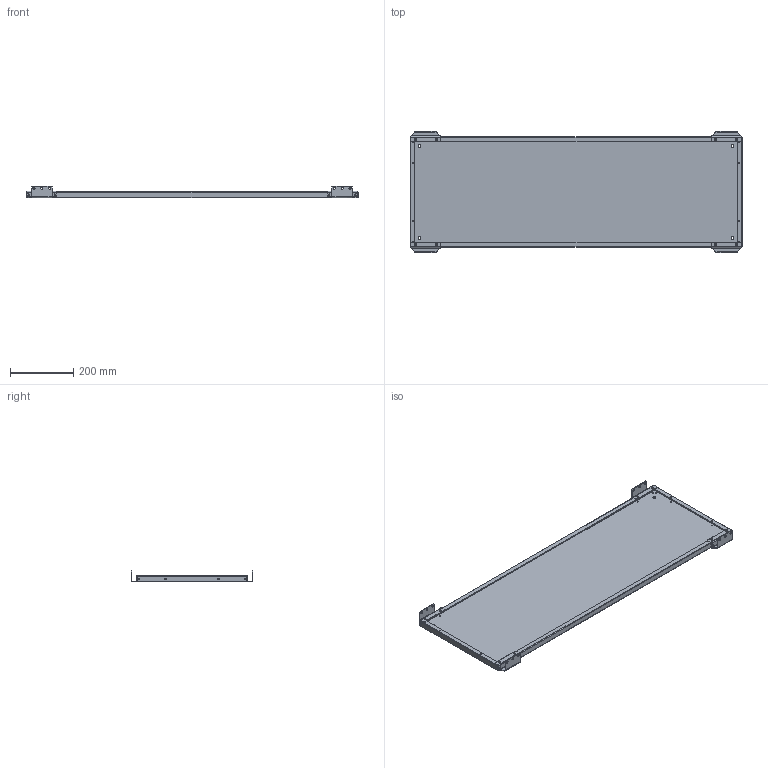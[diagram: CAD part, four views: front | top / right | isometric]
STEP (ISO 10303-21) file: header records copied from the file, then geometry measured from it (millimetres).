
FILE_DESCRIPTION (( 'STEP AP203' ), '1' );
FILE_NAME ('MP 105.35 M Ïàíåëü ìîíòàæíàÿ ñåêöèîííàÿ (ãîðèçîíòàëüíîå êðåïëåíèå).STEP', '2021-04-06T07:15:22', ( '' ), ( '' ), 'SwSTEP 2.0', 'SolidWorks 2018', '' );
FILE_SCHEMA (( 'CONFIG_CONTROL_DESIGN' ));
Length unit declared in the file: millimetre
Products named in the file (1): MP 105.35 M Ïàíåëü ìîíòàæíàÿ ñåêöèîííàÿ (ãîðèçîíòàëüíîå êðåïëåíèå)
Bounding box: 1050 x 385 x 37.75 mm (x, y, z)
Volume: 953071.8 mm3; surface area: 963574.1 mm2
Topology: 5 solids, 5 shells, 388 faces, 1016 edges, 632 vertices
Faces by surface type: cylinder 196, plane 168, bspline 16, sphere 8
Entity records: 12713 total; most frequent: CARTESIAN_POINT 2749, DIRECTION 2050, ORIENTED_EDGE 2016, EDGE_CURVE 1008, AXIS2_PLACEMENT_3D 733, VERTEX_POINT 632, VECTOR 584, LINE 584
